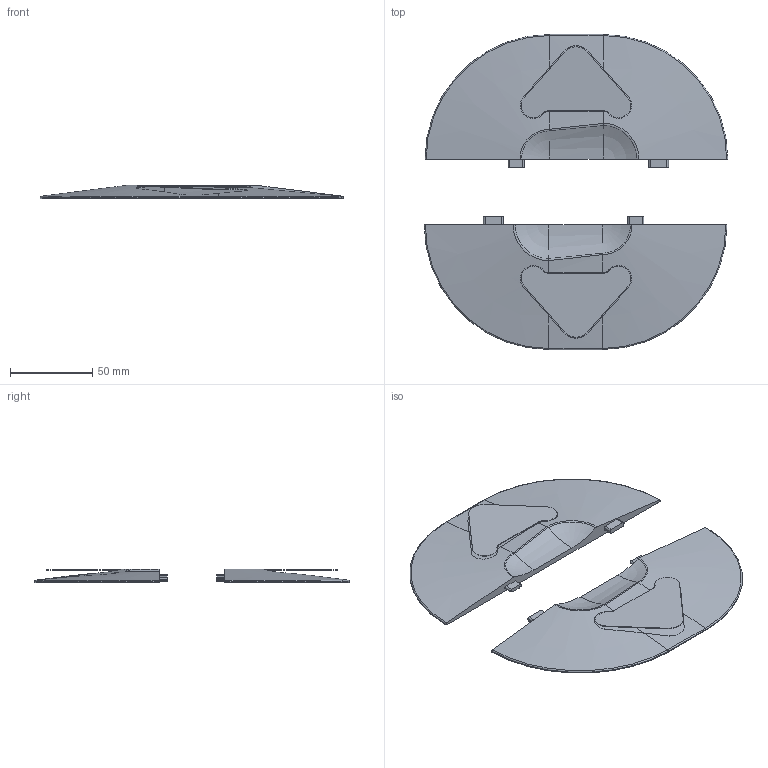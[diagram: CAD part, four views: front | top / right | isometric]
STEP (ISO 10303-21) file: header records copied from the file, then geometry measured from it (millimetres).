
FILE_DESCRIPTION(/* description */ ('STEP AP203'),/* implementation_level */ '2;1');
FILE_NAME(/* name */ '02084LHXLS01',/* time_stamp */ '2026-01-27T14:35:51+01:00',/* author */ ('License CC BY-ND 4.0'),/* organization */ ('CADENAS'),/* preprocessor_version */ 'ST-DEVELOPER v20',/* originating_system */ 'PARTsolutions',/* authorisation */ ' ');
FILE_SCHEMA (('CONFIG_CONTROL_DESIGN'));
Length unit declared in the file: millimetre
Products named in the file (2): 02084LHXLS01; 02084LHXLS01-1
Assembly tree (2 placements, depth 2):
  02084LHXLS01
    02084LHXLS01-1  x2
Bounding box: 184.97 x 191.96 x 8.47 mm (x, y, z)
Volume: 96856.3 mm3; surface area: 60984.3 mm2
Topology: 2 solids, 4 shells, 164 faces, 430 edges, 276 vertices
Faces by surface type: plane 72, cylinder 54, torus 16, bspline 14, cone 8
Entity records: 2649 total; most frequent: CARTESIAN_POINT 626, ORIENTED_EDGE 426, DIRECTION 397, EDGE_CURVE 213, AXIS2_PLACEMENT_3D 141, VERTEX_POINT 138, LINE 115, VECTOR 115
